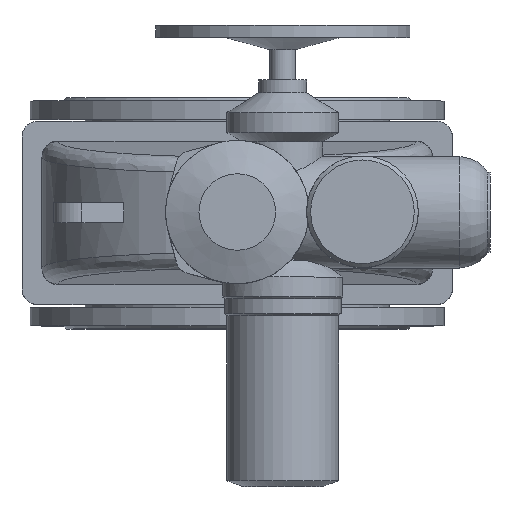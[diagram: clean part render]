
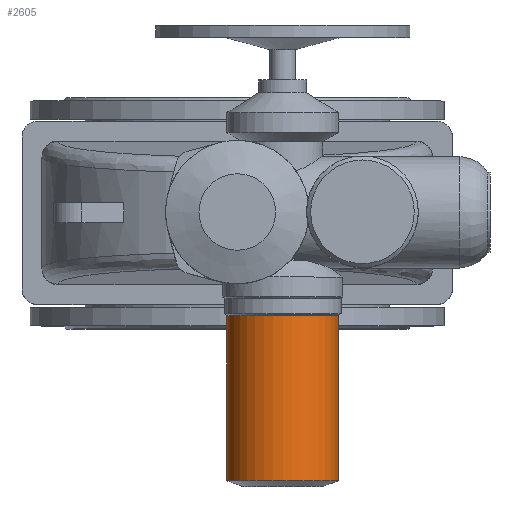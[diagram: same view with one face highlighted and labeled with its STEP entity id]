
A CAD part, top view. The second image highlights one B-rep face of the part: STEP entity #2605.
In plain terms, the highlighted cylindrical face has radius 70 mm (diameter 140 mm), a full revolution.
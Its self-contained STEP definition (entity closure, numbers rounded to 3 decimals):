
#2605=ADVANCED_FACE('',(#6127,#6129),#6131,.T.);
#6127=FACE_OUTER_BOUND('',#6128,.T.);
#6128=EDGE_LOOP('',(#7443));
#6129=FACE_OUTER_BOUND('',#6130,.T.);
#6130=EDGE_LOOP('',(#7444));
#6131=CYLINDRICAL_SURFACE('',#6132,70.);
#6132=AXIS2_PLACEMENT_3D('',#6133,#6134,#6135);
#6133=CARTESIAN_POINT('',(57.,-336.721,897.));
#6134=DIRECTION('',(0.,1.,0.));
#6135=DIRECTION('',(0.,0.,1.));
#7443=ORIENTED_EDGE('',*,*,#8093,.F.);
#7444=ORIENTED_EDGE('',*,*,#8094,.T.);
#8093=EDGE_CURVE('',#9199,#9199,#9200,.T.);
#8094=EDGE_CURVE('',#9201,#9201,#9202,.T.);
#9199=VERTEX_POINT('',#13127);
#9200=CIRCLE('',#13128,70.);
#9201=VERTEX_POINT('',#13132);
#9202=CIRCLE('',#13133,70.);
#13127=CARTESIAN_POINT('',(57.,-129.807,967.));
#13128=AXIS2_PLACEMENT_3D('',#13129,#13130,#13131);
#13129=CARTESIAN_POINT('',(57.,-129.807,897.));
#13130=DIRECTION('',(0.,1.,0.));
#13131=DIRECTION('',(0.,0.,1.));
#13132=CARTESIAN_POINT('',(57.,-336.721,967.));
#13133=AXIS2_PLACEMENT_3D('',#13134,#13135,#13136);
#13134=CARTESIAN_POINT('',(57.,-336.721,897.));
#13135=DIRECTION('',(0.,1.,0.));
#13136=DIRECTION('',(0.,0.,1.));
